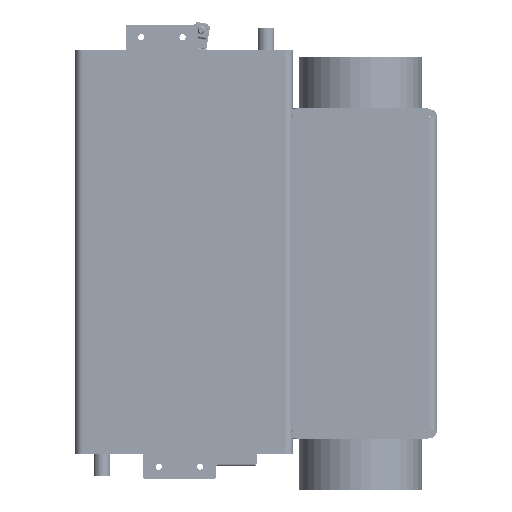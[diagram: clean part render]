
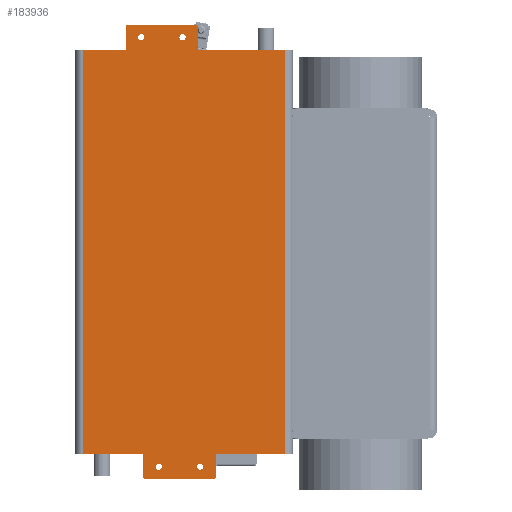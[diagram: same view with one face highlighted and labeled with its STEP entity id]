
A CAD part, front view. The second image highlights one B-rep face of the part: STEP entity #183936.
In plain terms, the highlighted planar face has unit normal (0, -1, 0) as drawn and (0, 0, 1) by its records, which use the part's own axes.
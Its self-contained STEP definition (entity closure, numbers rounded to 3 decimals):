
#4236=FACE_BOUND('',#67968,.T.);
#4237=FACE_BOUND('',#67969,.T.);
#4238=FACE_BOUND('',#67970,.T.);
#4239=FACE_BOUND('',#67971,.T.);
#6368=PLANE('',#195863);
#16022=LINE('',#267754,#36519);
#16037=LINE('',#267790,#36534);
#16043=LINE('',#267813,#36540);
#16058=LINE('',#267849,#36555);
#16061=LINE('',#267855,#36558);
#16062=LINE('',#267857,#36559);
#16063=LINE('',#267861,#36560);
#16064=LINE('',#267864,#36561);
#16065=LINE('',#267866,#36562);
#16066=LINE('',#267868,#36563);
#16067=LINE('',#267872,#36564);
#16068=LINE('',#267875,#36565);
#36519=VECTOR('',#214532,10.);
#36534=VECTOR('',#214571,10.);
#36540=VECTOR('',#214593,10.);
#36555=VECTOR('',#214632,10.);
#36558=VECTOR('',#214637,10.);
#36559=VECTOR('',#214638,10.);
#36560=VECTOR('',#214641,10.);
#36561=VECTOR('',#214644,10.);
#36562=VECTOR('',#214645,10.);
#36563=VECTOR('',#214646,10.);
#36564=VECTOR('',#214649,10.);
#36565=VECTOR('',#214652,10.);
#57486=FACE_OUTER_BOUND('',#67967,.T.);
#67967=EDGE_LOOP('',(#134275,#134276,#134277,#134278,#134279,#134280,#134281,
#134282,#134283,#134284,#134285,#134286,#134287,#134288,#134289,#134290));
#67968=EDGE_LOOP('',(#134291));
#67969=EDGE_LOOP('',(#134292));
#67970=EDGE_LOOP('',(#134293));
#67971=EDGE_LOOP('',(#134294));
#79317=CIRCLE('',#195812,3.);
#79319=CIRCLE('',#195815,3.);
#79321=CIRCLE('',#195818,3.);
#79323=CIRCLE('',#195821,3.);
#79341=CIRCLE('',#195864,2.);
#79342=CIRCLE('',#195865,2.);
#79343=CIRCLE('',#195866,2.);
#79344=CIRCLE('',#195867,2.);
#84594=VERTEX_POINT('',#267712);
#84596=VERTEX_POINT('',#267718);
#84598=VERTEX_POINT('',#267724);
#84600=VERTEX_POINT('',#267730);
#84608=VERTEX_POINT('',#267751);
#84609=VERTEX_POINT('',#267753);
#84618=VERTEX_POINT('',#267789);
#84626=VERTEX_POINT('',#267810);
#84627=VERTEX_POINT('',#267812);
#84636=VERTEX_POINT('',#267848);
#84638=VERTEX_POINT('',#267854);
#84639=VERTEX_POINT('',#267856);
#84640=VERTEX_POINT('',#267858);
#84641=VERTEX_POINT('',#267860);
#84642=VERTEX_POINT('',#267862);
#84643=VERTEX_POINT('',#267865);
#84644=VERTEX_POINT('',#267867);
#84645=VERTEX_POINT('',#267869);
#84646=VERTEX_POINT('',#267871);
#84647=VERTEX_POINT('',#267873);
#103804=EDGE_CURVE('',#84594,#84594,#79317,.T.);
#103807=EDGE_CURVE('',#84596,#84596,#79319,.T.);
#103810=EDGE_CURVE('',#84598,#84598,#79321,.T.);
#103813=EDGE_CURVE('',#84600,#84600,#79323,.T.);
#103824=EDGE_CURVE('',#84609,#84608,#16022,.T.);
#103842=EDGE_CURVE('',#84609,#84618,#16037,.T.);
#103853=EDGE_CURVE('',#84627,#84626,#16043,.T.);
#103871=EDGE_CURVE('',#84627,#84636,#16058,.T.);
#103874=EDGE_CURVE('',#84638,#84608,#16061,.T.);
#103875=EDGE_CURVE('',#84639,#84638,#16062,.T.);
#103876=EDGE_CURVE('',#84640,#84639,#79341,.T.);
#103877=EDGE_CURVE('',#84641,#84640,#16063,.T.);
#103878=EDGE_CURVE('',#84642,#84641,#79342,.T.);
#103879=EDGE_CURVE('',#84636,#84642,#16064,.T.);
#103880=EDGE_CURVE('',#84643,#84626,#16065,.T.);
#103881=EDGE_CURVE('',#84644,#84643,#16066,.T.);
#103882=EDGE_CURVE('',#84645,#84644,#79343,.T.);
#103883=EDGE_CURVE('',#84646,#84645,#16067,.T.);
#103884=EDGE_CURVE('',#84647,#84646,#79344,.T.);
#103885=EDGE_CURVE('',#84618,#84647,#16068,.T.);
#134275=ORIENTED_EDGE('',*,*,#103824,.T.);
#134276=ORIENTED_EDGE('',*,*,#103874,.F.);
#134277=ORIENTED_EDGE('',*,*,#103875,.F.);
#134278=ORIENTED_EDGE('',*,*,#103876,.F.);
#134279=ORIENTED_EDGE('',*,*,#103877,.F.);
#134280=ORIENTED_EDGE('',*,*,#103878,.F.);
#134281=ORIENTED_EDGE('',*,*,#103879,.F.);
#134282=ORIENTED_EDGE('',*,*,#103871,.F.);
#134283=ORIENTED_EDGE('',*,*,#103853,.T.);
#134284=ORIENTED_EDGE('',*,*,#103880,.F.);
#134285=ORIENTED_EDGE('',*,*,#103881,.F.);
#134286=ORIENTED_EDGE('',*,*,#103882,.F.);
#134287=ORIENTED_EDGE('',*,*,#103883,.F.);
#134288=ORIENTED_EDGE('',*,*,#103884,.F.);
#134289=ORIENTED_EDGE('',*,*,#103885,.F.);
#134290=ORIENTED_EDGE('',*,*,#103842,.F.);
#134291=ORIENTED_EDGE('',*,*,#103804,.T.);
#134292=ORIENTED_EDGE('',*,*,#103807,.T.);
#134293=ORIENTED_EDGE('',*,*,#103810,.T.);
#134294=ORIENTED_EDGE('',*,*,#103813,.T.);
#183936=ADVANCED_FACE('',(#57486,#4236,#4237,#4238,#4239),#6368,.T.);
#195812=AXIS2_PLACEMENT_3D('',#267713,#214487,#214488);
#195815=AXIS2_PLACEMENT_3D('',#267719,#214494,#214495);
#195818=AXIS2_PLACEMENT_3D('',#267725,#214501,#214502);
#195821=AXIS2_PLACEMENT_3D('',#267731,#214508,#214509);
#195863=AXIS2_PLACEMENT_3D('',#267853,#214635,#214636);
#195864=AXIS2_PLACEMENT_3D('',#267859,#214639,#214640);
#195865=AXIS2_PLACEMENT_3D('',#267863,#214642,#214643);
#195866=AXIS2_PLACEMENT_3D('',#267870,#214647,#214648);
#195867=AXIS2_PLACEMENT_3D('',#267874,#214650,#214651);
#214487=DIRECTION('center_axis',(0.,0.,
-1.));
#214488=DIRECTION('ref_axis',(-1.,0.,0.));
#214494=DIRECTION('center_axis',(0.,0.,
-1.));
#214495=DIRECTION('ref_axis',(-1.,0.,0.));
#214501=DIRECTION('center_axis',(0.,0.,
-1.));
#214502=DIRECTION('ref_axis',(-1.,0.,0.));
#214508=DIRECTION('center_axis',(0.,0.,
-1.));
#214509=DIRECTION('ref_axis',(-1.,0.,0.));
#214532=DIRECTION('',(0.,-1.,0.));
#214571=DIRECTION('',(1.,0.,0.));
#214593=DIRECTION('',(0.,1.,0.));
#214632=DIRECTION('',(-1.,0.,0.));
#214635=DIRECTION('center_axis',(0.,0.,
1.));
#214636=DIRECTION('ref_axis',(1.,0.,0.));
#214637=DIRECTION('',(-1.,0.,0.));
#214638=DIRECTION('',(0.,1.,0.));
#214639=DIRECTION('center_axis',(0.,0.,-1.));
#214640=DIRECTION('ref_axis',(-1.,0.,0.));
#214641=DIRECTION('',(-1.,0.,0.));
#214642=DIRECTION('center_axis',(0.,0.,-1.));
#214643=DIRECTION('ref_axis',(0.,-1.,0.));
#214644=DIRECTION('',(0.,-1.,0.));
#214645=DIRECTION('',(1.,0.,0.));
#214646=DIRECTION('',(0.,-1.,0.));
#214647=DIRECTION('center_axis',(0.,0.,-1.));
#214648=DIRECTION('ref_axis',(1.,0.,0.));
#214649=DIRECTION('',(1.,0.,0.));
#214650=DIRECTION('center_axis',(0.,0.,-1.));
#214651=DIRECTION('ref_axis',(0.,1.,0.));
#214652=DIRECTION('',(0.,1.,0.));
#267712=CARTESIAN_POINT('',(-8.5,-207.5,6.));
#267713=CARTESIAN_POINT('Origin',(-11.5,-207.5,6.));
#267718=CARTESIAN_POINT('',(-25.5,207.5,6.));
#267719=CARTESIAN_POINT('Origin',(-28.5,207.5,6.));
#267724=CARTESIAN_POINT('',(14.5,207.5,6.));
#267725=CARTESIAN_POINT('Origin',(11.5,207.5,6.));
#267730=CARTESIAN_POINT('',(31.5,-207.5,6.));
#267731=CARTESIAN_POINT('Origin',(28.5,-207.5,6.));
#267751=CARTESIAN_POINT('',(-110.5,-195.5,6.));
#267753=CARTESIAN_POINT('',(-110.5,195.5,6.));
#267754=CARTESIAN_POINT('',(-110.5,97.75,6.));
#267789=CARTESIAN_POINT('',(-43.5,195.5,6.));
#267790=CARTESIAN_POINT('',(-43.5,195.5,6.));
#267810=CARTESIAN_POINT('',(85.,195.5,6.));
#267812=CARTESIAN_POINT('',(85.,-195.5,6.));
#267813=CARTESIAN_POINT('',(85.,-97.75,6.));
#267848=CARTESIAN_POINT('',(43.5,-195.5,6.));
#267849=CARTESIAN_POINT('',(43.5,-195.5,6.));
#267853=CARTESIAN_POINT('Origin',(-11.822,0.,
6.));
#267854=CARTESIAN_POINT('',(-26.5,-195.5,6.));
#267855=CARTESIAN_POINT('',(-112.,-195.5,6.));
#267856=CARTESIAN_POINT('',(-26.5,-217.5,6.));
#267857=CARTESIAN_POINT('',(-26.5,-195.5,6.));
#267858=CARTESIAN_POINT('',(-24.5,-219.5,6.));
#267859=CARTESIAN_POINT('Origin',(-24.5,-217.5,6.));
#267860=CARTESIAN_POINT('',(41.5,-219.5,6.));
#267861=CARTESIAN_POINT('',(-24.5,-219.5,6.));
#267862=CARTESIAN_POINT('',(43.5,-217.5,6.));
#267863=CARTESIAN_POINT('Origin',(41.5,-217.5,6.));
#267864=CARTESIAN_POINT('',(43.5,-217.5,6.));
#267865=CARTESIAN_POINT('',(26.5,195.5,6.));
#267866=CARTESIAN_POINT('',(86.5,195.5,6.));
#267867=CARTESIAN_POINT('',(26.5,217.5,6.));
#267868=CARTESIAN_POINT('',(26.5,195.5,6.));
#267869=CARTESIAN_POINT('',(24.5,219.5,6.));
#267870=CARTESIAN_POINT('Origin',(24.5,217.5,6.));
#267871=CARTESIAN_POINT('',(-41.5,219.5,6.));
#267872=CARTESIAN_POINT('',(24.5,219.5,6.));
#267873=CARTESIAN_POINT('',(-43.5,217.5,6.));
#267874=CARTESIAN_POINT('Origin',(-41.5,217.5,6.));
#267875=CARTESIAN_POINT('',(-43.5,217.5,6.));
